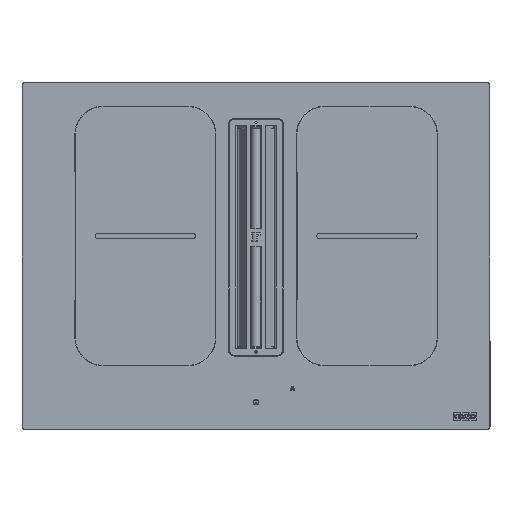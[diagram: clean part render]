
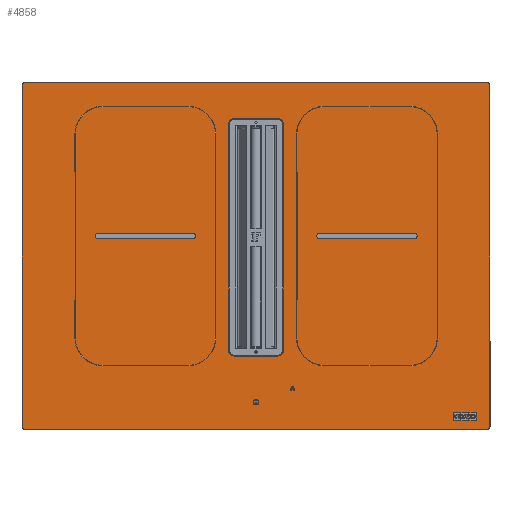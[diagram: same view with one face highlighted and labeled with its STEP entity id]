
A CAD part, top view. The second image highlights one B-rep face of the part: STEP entity #4858.
In plain terms, the highlighted planar face has unit normal (0, 0, 1) as drawn and (0, 1, 0) by its records, which use the part's own axes.
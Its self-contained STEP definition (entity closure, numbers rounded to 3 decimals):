
#1706=TRIMMED_CURVE($,#2915,(#81995),(#81996),.T.,.CARTESIAN.);
#1710=TRIMMED_CURVE($,#2919,(#82009),(#82010),.T.,.CARTESIAN.);
#1714=TRIMMED_CURVE($,#2923,(#82023),(#82024),.T.,.CARTESIAN.);
#1718=TRIMMED_CURVE($,#2927,(#82037),(#82038),.T.,.CARTESIAN.);
#1720=TRIMMED_CURVE($,#2929,(#82183),(#82184),.T.,.CARTESIAN.);
#1725=TRIMMED_CURVE($,#2934,(#82198),(#82199),.T.,.CARTESIAN.);
#1729=TRIMMED_CURVE($,#2938,(#82210),(#82211),.T.,.CARTESIAN.);
#1733=TRIMMED_CURVE($,#2942,(#82222),(#82223),.T.,.CARTESIAN.);
#2915=CIRCLE('',#34178,4.372);
#2919=CIRCLE('',#34182,4.372);
#2923=CIRCLE('',#34186,4.372);
#2927=CIRCLE('',#34190,4.372);
#2929=CIRCLE('',#34192,8.628);
#2934=CIRCLE('',#34197,8.628);
#2938=CIRCLE('',#34201,8.628);
#2942=CIRCLE('',#34205,8.628);
#4858=ADVANCED_FACE('',(#6714,#5254),#30496,.T.);
#5254=FACE_BOUND('',#8537,.T.);
#6714=FACE_OUTER_BOUND('',#8536,.T.);
#8536=EDGE_LOOP('',(#15842,#15843,#15844,#15845,#15846,#15847,#15848,#15849));
#8537=EDGE_LOOP('',(#15850,#15851,#15852,#15853,#15854,#15855,#15856,#15857));
#15842=ORIENTED_EDGE('',*,*,#21049,.T.);
#15843=ORIENTED_EDGE('',*,*,#21060,.T.);
#15844=ORIENTED_EDGE('',*,*,#21052,.T.);
#15845=ORIENTED_EDGE('',*,*,#21065,.T.);
#15846=ORIENTED_EDGE('',*,*,#21051,.T.);
#15847=ORIENTED_EDGE('',*,*,#21070,.T.);
#15848=ORIENTED_EDGE('',*,*,#21050,.T.);
#15849=ORIENTED_EDGE('',*,*,#21075,.T.);
#15850=ORIENTED_EDGE('',*,*,#21056,.T.);
#15851=ORIENTED_EDGE('',*,*,#21152,.T.);
#15852=ORIENTED_EDGE('',*,*,#21055,.T.);
#15853=ORIENTED_EDGE('',*,*,#21156,.T.);
#15854=ORIENTED_EDGE('',*,*,#21054,.T.);
#15855=ORIENTED_EDGE('',*,*,#21160,.T.);
#15856=ORIENTED_EDGE('',*,*,#21053,.T.);
#15857=ORIENTED_EDGE('',*,*,#21147,.T.);
#21049=EDGE_CURVE('',#28138,#28139,#24805,.T.);
#21050=EDGE_CURVE('',#28141,#28140,#24806,.T.);
#21051=EDGE_CURVE('',#28143,#28142,#24807,.T.);
#21052=EDGE_CURVE('',#28145,#28144,#24808,.T.);
#21053=EDGE_CURVE('',#28148,#28146,#24809,.T.);
#21054=EDGE_CURVE('',#28150,#28149,#24810,.T.);
#21055=EDGE_CURVE('',#28152,#28151,#24811,.T.);
#21056=EDGE_CURVE('',#28147,#28153,#24812,.T.);
#21060=EDGE_CURVE('',#28139,#28145,#1706,.T.);
#21065=EDGE_CURVE('',#28144,#28143,#1710,.T.);
#21070=EDGE_CURVE('',#28142,#28141,#1714,.T.);
#21075=EDGE_CURVE('',#28140,#28138,#1718,.T.);
#21147=EDGE_CURVE('',#28146,#28147,#1720,.T.);
#21152=EDGE_CURVE('',#28153,#28152,#1725,.T.);
#21156=EDGE_CURVE('',#28151,#28150,#1729,.T.);
#21160=EDGE_CURVE('',#28149,#28148,#1733,.T.);
#24805=B_SPLINE_CURVE_WITH_KNOTS('',1,(#81970,#81971),.UNSPECIFIED.,.F.,
 .F.,(2,2),(-690.,0.),.UNSPECIFIED.);
#24806=B_SPLINE_CURVE_WITH_KNOTS('',1,(#81972,#81973),.UNSPECIFIED.,.F.,
 .F.,(2,2),(-510.,0.),.UNSPECIFIED.);
#24807=B_SPLINE_CURVE_WITH_KNOTS('',1,(#81974,#81975),.UNSPECIFIED.,.F.,
 .F.,(2,2),(-690.,0.),.UNSPECIFIED.);
#24808=B_SPLINE_CURVE_WITH_KNOTS('',1,(#81976,#81977),.UNSPECIFIED.,.F.,
 .F.,(2,2),(-510.,0.),.UNSPECIFIED.);
#24809=B_SPLINE_CURVE_WITH_KNOTS('',1,(#81978,#81979),.UNSPECIFIED.,.F.,
 .F.,(2,2),(-338.,0.),.UNSPECIFIED.);
#24810=B_SPLINE_CURVE_WITH_KNOTS('',1,(#81980,#81981),.UNSPECIFIED.,.F.,
 .F.,(2,2),(-65.,0.),.UNSPECIFIED.);
#24811=B_SPLINE_CURVE_WITH_KNOTS('',1,(#81982,#81983),.UNSPECIFIED.,.F.,
 .F.,(2,2),(-338.,0.),.UNSPECIFIED.);
#24812=B_SPLINE_CURVE_WITH_KNOTS('',1,(#81984,#81985),.UNSPECIFIED.,.F.,
 .F.,(2,2),(-65.,0.),.UNSPECIFIED.);
#28138=VERTEX_POINT('',#81894);
#28139=VERTEX_POINT('',#81895);
#28140=VERTEX_POINT('',#81896);
#28141=VERTEX_POINT('',#81897);
#28142=VERTEX_POINT('',#81898);
#28143=VERTEX_POINT('',#81899);
#28144=VERTEX_POINT('',#81900);
#28145=VERTEX_POINT('',#81901);
#28146=VERTEX_POINT('',#81902);
#28147=VERTEX_POINT('',#81903);
#28148=VERTEX_POINT('',#81904);
#28149=VERTEX_POINT('',#81905);
#28150=VERTEX_POINT('',#81906);
#28151=VERTEX_POINT('',#81907);
#28152=VERTEX_POINT('',#81908);
#28153=VERTEX_POINT('',#81909);
#30496=PLANE('',#34139);
#34139=AXIS2_PLACEMENT_3D('',#81469,#37931,$);
#34178=AXIS2_PLACEMENT_3D($,#81994,#37972,#37973);
#34182=AXIS2_PLACEMENT_3D($,#82008,#37980,#37981);
#34186=AXIS2_PLACEMENT_3D($,#82022,#37988,#37989);
#34190=AXIS2_PLACEMENT_3D($,#82036,#37996,#37997);
#34192=AXIS2_PLACEMENT_3D($,#82182,#38000,#38001);
#34197=AXIS2_PLACEMENT_3D($,#82197,#38010,#38011);
#34201=AXIS2_PLACEMENT_3D($,#82209,#38018,#38019);
#34205=AXIS2_PLACEMENT_3D($,#82221,#38026,#38027);
#37931=DIRECTION('',(0.,1.,0.));
#37972=DIRECTION('',(0.,1.,0.));
#37973=DIRECTION('',(0.,0.,-1.));
#37980=DIRECTION('',(0.,1.,0.));
#37981=DIRECTION('',(-1.,0.,0.));
#37988=DIRECTION('',(0.,1.,0.));
#37989=DIRECTION('',(0.,0.,1.));
#37996=DIRECTION('',(0.,1.,0.));
#37997=DIRECTION('',(1.,0.,0.));
#38000=DIRECTION('',(0.,-1.,0.));
#38001=DIRECTION('',(-1.,0.,0.));
#38010=DIRECTION('',(0.,-1.,0.));
#38011=DIRECTION('',(0.,0.,-1.));
#38018=DIRECTION('',(0.,-1.,0.));
#38019=DIRECTION('',(1.,0.,0.));
#38026=DIRECTION('',(0.,-1.,0.));
#38027=DIRECTION('',(0.,0.,1.));
#81469=CARTESIAN_POINT('',(-419.345,0.,311.345));
#81894=CARTESIAN_POINT('',(345.,0.,-259.372));
#81895=CARTESIAN_POINT('',(-345.,0.,-259.372));
#81896=CARTESIAN_POINT('',(349.372,0.,-255.));
#81897=CARTESIAN_POINT('',(349.372,0.,255.));
#81898=CARTESIAN_POINT('',(345.,0.,259.372));
#81899=CARTESIAN_POINT('',(-345.,0.,259.372));
#81900=CARTESIAN_POINT('',(-349.372,0.,255.));
#81901=CARTESIAN_POINT('',(-349.372,0.,-255.));
#81902=CARTESIAN_POINT('',(-41.128,0.,-197.));
#81903=CARTESIAN_POINT('',(-32.5,0.,-205.628));
#81904=CARTESIAN_POINT('',(-41.128,0.,141.));
#81905=CARTESIAN_POINT('',(-32.5,0.,149.628));
#81906=CARTESIAN_POINT('',(32.5,0.,149.628));
#81907=CARTESIAN_POINT('',(41.128,0.,141.));
#81908=CARTESIAN_POINT('',(41.128,0.,-197.));
#81909=CARTESIAN_POINT('',(32.5,0.,-205.628));
#81970=CARTESIAN_POINT('',(345.,0.,-259.372));
#81971=CARTESIAN_POINT('',(-345.,0.,-259.372));
#81972=CARTESIAN_POINT('',(349.372,0.,255.));
#81973=CARTESIAN_POINT('',(349.372,0.,-255.));
#81974=CARTESIAN_POINT('',(-345.,0.,259.372));
#81975=CARTESIAN_POINT('',(345.,0.,259.372));
#81976=CARTESIAN_POINT('',(-349.372,0.,-255.));
#81977=CARTESIAN_POINT('',(-349.372,0.,255.));
#81978=CARTESIAN_POINT('',(-41.128,0.,141.));
#81979=CARTESIAN_POINT('',(-41.128,0.,-197.));
#81980=CARTESIAN_POINT('',(32.5,0.,149.628));
#81981=CARTESIAN_POINT('',(-32.5,0.,149.628));
#81982=CARTESIAN_POINT('',(41.128,0.,-197.));
#81983=CARTESIAN_POINT('',(41.128,0.,141.));
#81984=CARTESIAN_POINT('',(-32.5,0.,-205.628));
#81985=CARTESIAN_POINT('',(32.5,0.,-205.628));
#81994=CARTESIAN_POINT('',(-345.,0.,-255.));
#81995=CARTESIAN_POINT('',(-345.,0.,-259.372));
#81996=CARTESIAN_POINT('',(-349.372,0.,-255.));
#82008=CARTESIAN_POINT('',(-345.,0.,255.));
#82009=CARTESIAN_POINT('',(-349.372,0.,255.));
#82010=CARTESIAN_POINT('',(-345.,0.,259.372));
#82022=CARTESIAN_POINT('',(345.,0.,255.));
#82023=CARTESIAN_POINT('',(345.,0.,259.372));
#82024=CARTESIAN_POINT('',(349.372,0.,255.));
#82036=CARTESIAN_POINT('',(345.,0.,-255.));
#82037=CARTESIAN_POINT('',(349.372,0.,-255.));
#82038=CARTESIAN_POINT('',(345.,0.,-259.372));
#82182=CARTESIAN_POINT('',(-32.5,0.,-197.));
#82183=CARTESIAN_POINT('',(-41.128,0.,-197.));
#82184=CARTESIAN_POINT('',(-32.5,0.,-205.628));
#82197=CARTESIAN_POINT('',(32.5,0.,-197.));
#82198=CARTESIAN_POINT('',(32.5,0.,-205.628));
#82199=CARTESIAN_POINT('',(41.128,0.,-197.));
#82209=CARTESIAN_POINT('',(32.5,0.,141.));
#82210=CARTESIAN_POINT('',(41.128,0.,141.));
#82211=CARTESIAN_POINT('',(32.5,0.,149.628));
#82221=CARTESIAN_POINT('',(-32.5,0.,141.));
#82222=CARTESIAN_POINT('',(-32.5,0.,149.628));
#82223=CARTESIAN_POINT('',(-41.128,0.,141.));
